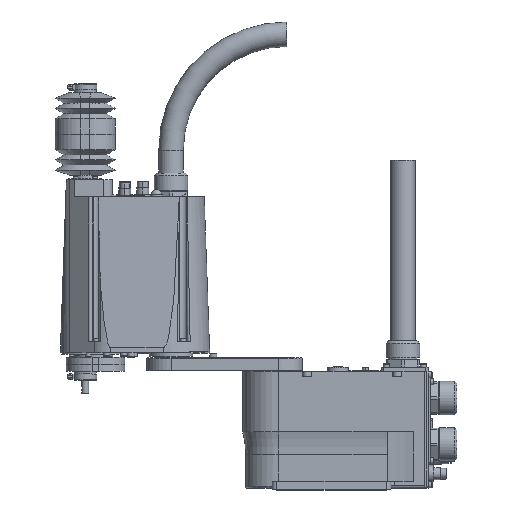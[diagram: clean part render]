
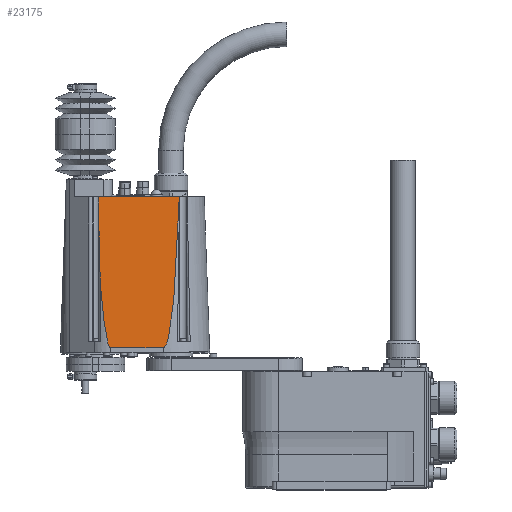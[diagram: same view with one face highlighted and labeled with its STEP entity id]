
A CAD part, top view. The second image highlights one B-rep face of the part: STEP entity #23175.
In plain terms, the highlighted planar face has unit normal (0, 0.035, 0.999).
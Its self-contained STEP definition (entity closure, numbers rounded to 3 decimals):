
#9293 = VERTEX_POINT( '', #26772 );
#10597 = VERTEX_POINT( '', #28222 );
#11557 = EDGE_CURVE( '', #10597, #9293, #29290, .T. );
#13549 = VERTEX_POINT( '', #31540 );
#14999 = EDGE_CURVE( '', #21903, #24181, #33175, .T. );
#18435 = EDGE_CURVE( '', #13549, #9293, #37047, .T. );
#18697 = VERTEX_POINT( '', #37330 );
#19527 = EDGE_CURVE( '', #18697, #10597, #38238, .T. );
#21903 = VERTEX_POINT( '', #40925 );
#21957 = EDGE_CURVE( '', #21903, #18697, #40985, .T. );
#22385 = EDGE_CURVE( '', #24181, #13549, #41457, .T. );
#23175 = ADVANCED_FACE( '', ( #42355 ), #42356, .F. );
#24181 = VERTEX_POINT( '', #43472 );
#26772 = CARTESIAN_POINT( '', ( -207.1, 235.221, 51.495 ) );
#28222 = CARTESIAN_POINT( '', ( -195.1, 163.5, 54. ) );
#29290 = ELLIPSE( '', #50084, 859.611, 30. );
#31540 = CARTESIAN_POINT( '', ( -207.1, 241.074, 51.291 ) );
#33175 = LINE( '', #55408, #55409 );
#37047 = LINE( '', #60719, #60720 );
#37330 = CARTESIAN_POINT( '', ( -134.21, 163.5, 54. ) );
#38238 = LINE( '', #62360, #62361 );
#40925 = CARTESIAN_POINT( '', ( -115.327, 339.3, 47.861 ) );
#40985 = ELLIPSE( '', #66031, 1548.243, 54. );
#41457 = ELLIPSE( '', #66683, 85.961, 3. );
#42355 = FACE_OUTER_BOUND( '', #67912, .T. );
#42356 = PLANE( '', #67913 );
#43472 = CARTESIAN_POINT( '', ( -208.931, 339.3, 47.861 ) );
#50084 = AXIS2_PLACEMENT_3D( '', #75950, #75951, #75952 );
#55408 = CARTESIAN_POINT( '', ( -120.6, 339.3, 47.861 ) );
#55409 = VECTOR( '', #80576, 1. );
#60719 = CARTESIAN_POINT( '', ( -207.1, 164.043, 53.981 ) );
#60720 = VECTOR( '', #85165, 1. );
#62360 = CARTESIAN_POINT( '', ( -75.1, 163.5, 54. ) );
#62361 = VECTOR( '', #86475, 1. );
#66031 = AXIS2_PLACEMENT_3D( '', #89741, #89742, #89743 );
#66683 = AXIS2_PLACEMENT_3D( '', #90279, #90280, #90281 );
#67912 = EDGE_LOOP( '', ( #91411, #91412, #91413, #91414, #91415, #91416 ) );
#67913 = AXIS2_PLACEMENT_3D( '', #91417, #91418, #91419 );
#75950 = CARTESIAN_POINT( '', ( -195.1, 1022.588, 24. ) );
#75951 = DIRECTION( '', ( 0., -0.035, -0.999 ) );
#75952 = DIRECTION( '', ( 0., -0.999, 0.035 ) );
#80576 = DIRECTION( '', ( -1., 0., 0. ) );
#85165 = DIRECTION( '', ( 0., -0.999, 0.035 ) );
#86475 = DIRECTION( '', ( -1., 0., 0. ) );
#89741 = CARTESIAN_POINT( '', ( -188.21, 1709.858, 0. ) );
#89742 = DIRECTION( '', ( 0., -0.035, -0.999 ) );
#89743 = DIRECTION( '', ( 0.035, -0.999, 0.035 ) );
#90279 = CARTESIAN_POINT( '', ( -206., 320.999, 48.5 ) );
#90280 = DIRECTION( '', ( 0., 0.035, 0.999 ) );
#90281 = DIRECTION( '', ( 0., -0.999, 0.035 ) );
#91411 = ORIENTED_EDGE( '', *, *, #22385, .T. );
#91412 = ORIENTED_EDGE( '', *, *, #18435, .T. );
#91413 = ORIENTED_EDGE( '', *, *, #11557, .F. );
#91414 = ORIENTED_EDGE( '', *, *, #19527, .F. );
#91415 = ORIENTED_EDGE( '', *, *, #21957, .F. );
#91416 = ORIENTED_EDGE( '', *, *, #14999, .T. );
#91417 = CARTESIAN_POINT( '', ( -16.2, 157.5, 54.21 ) );
#91418 = DIRECTION( '', ( 0., -0.035, -0.999 ) );
#91419 = DIRECTION( '', ( 0., -0.999, 0.035 ) );
